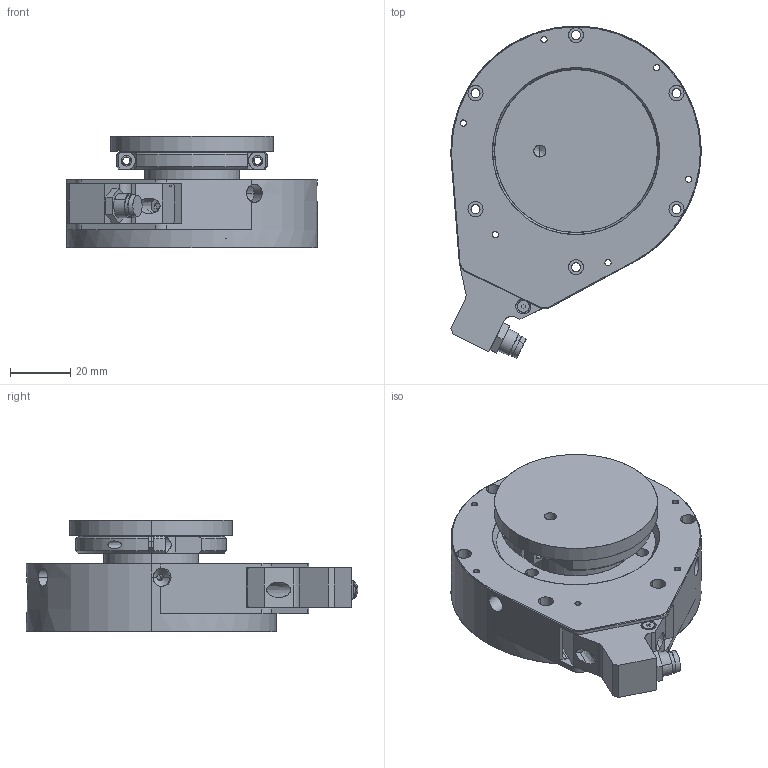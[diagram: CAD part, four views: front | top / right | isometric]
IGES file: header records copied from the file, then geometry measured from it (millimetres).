
Start section: Comment
Global section: file name: 99-0010A.igs; native system: Parasolid(12.0); preprocessor: Pariges 4.4; author: Author; organization: Title; date: 20010622.140841; units: millimetre
Bounding box: 83 x 110.11 x 37 mm (x, y, z)
Surface area: 51562.6 mm2 (no closed solid volume)
Topology: 0 solids, 0 shells, 530 faces, 6970 edges, 6944 vertices
Faces by surface type: revolution 370, extrusion 160
